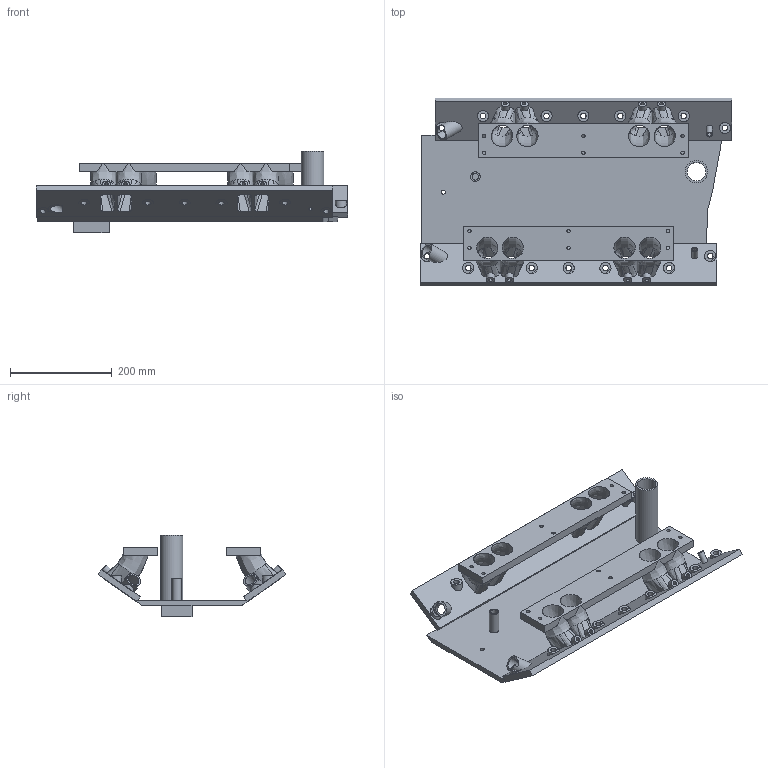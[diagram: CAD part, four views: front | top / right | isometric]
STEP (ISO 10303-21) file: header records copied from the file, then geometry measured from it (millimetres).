
FILE_DESCRIPTION(('Open CASCADE Model'),'2;1');
FILE_NAME('Open CASCADE Shape Model','2026-09-28T12:24:40',('Author'),( 'Open CASCADE'),'Open CASCADE STEP processor 8.0','build123d', 'Unknown');
FILE_SCHEMA(('AUTOMOTIVE_DESIGN { 1 0 10303 214 1 1 1 1 }'));
Length unit declared in the file: millimetre
Products named in the file (1): SOLID
Bounding box: 612 x 369.55 x 161 mm (x, y, z)
Volume: 3434966.2 mm3; surface area: 844764.4 mm2
Topology: 1 solids, 1 shells, 354 faces, 1066 edges, 698 vertices
Faces by surface type: bspline 176, plane 103, cylinder 75
Full cylindrical faces by diameter (mm): 6.8 x12, 7 x8, 8 x3, 11 x14, 12 x2, 13 x1, 19 x1, 22 x12, 23 x2, 30 x2, 36 x1, 44 x1
Entity records: 62222 total; most frequent: CARTESIAN_POINT 44183, DIRECTION 2403, ORIENTED_EDGE 2092, PCURVE 2084, DEFINITIONAL_REPRESENTATION 2084, B_SPLINE_CURVE_WITH_KNOTS 1431, LINE 1065, VECTOR 1065
